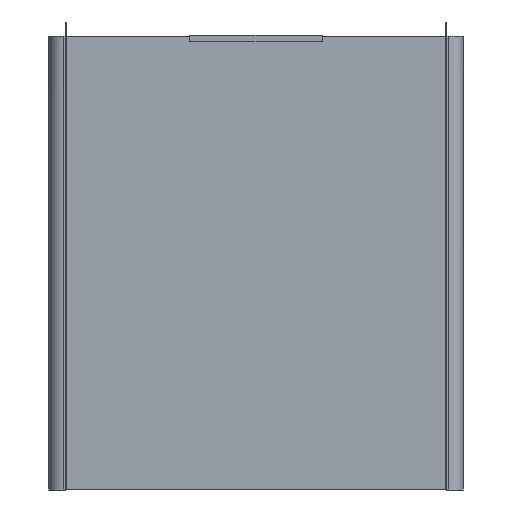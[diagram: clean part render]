
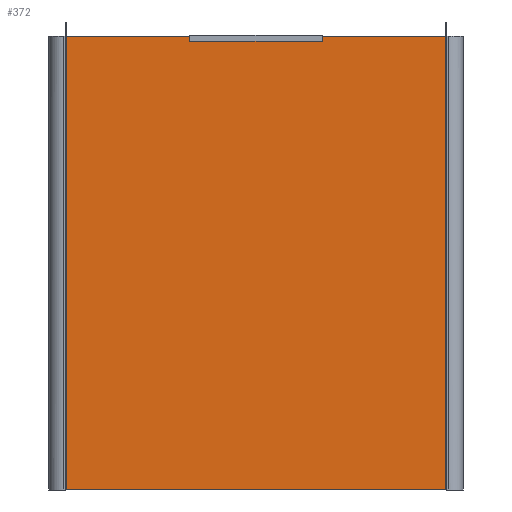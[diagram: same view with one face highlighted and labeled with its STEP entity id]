
A CAD part, front view. The second image highlights one B-rep face of the part: STEP entity #372.
In plain terms, the highlighted planar face has unit normal (0, -1, 0).
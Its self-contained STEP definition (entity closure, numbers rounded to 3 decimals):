
#372=ADVANCED_FACE('',(#467),#1665,.T.);
#467=FACE_OUTER_BOUND('',#570,.T.);
#570=EDGE_LOOP('',(#1024,#1025,#1026,#1027));
#1024=ORIENTED_EDGE('',*,*,#1268,.T.);
#1025=ORIENTED_EDGE('',*,*,#1269,.T.);
#1026=ORIENTED_EDGE('',*,*,#1270,.T.);
#1027=ORIENTED_EDGE('',*,*,#1266,.F.);
#1266=EDGE_CURVE('',#1592,#1593,#1423,.T.);
#1268=EDGE_CURVE('',#1592,#1594,#1425,.T.);
#1269=EDGE_CURVE('',#1594,#1595,#1426,.T.);
#1270=EDGE_CURVE('',#1595,#1593,#1427,.T.);
#1423=B_SPLINE_CURVE_WITH_KNOTS('',1,(#3163,#3164),.UNSPECIFIED.,.F.,.F.,
(2,2),(0.,430.),.UNSPECIFIED.);
#1425=B_SPLINE_CURVE_WITH_KNOTS('',1,(#3167,#3168),.UNSPECIFIED.,.F.,.F.,
(2,2),(-514.,0.),.UNSPECIFIED.);
#1426=B_SPLINE_CURVE_WITH_KNOTS('',1,(#3169,#3170),.UNSPECIFIED.,.F.,.F.,
(2,2),(0.,430.),.UNSPECIFIED.);
#1427=B_SPLINE_CURVE_WITH_KNOTS('',1,(#3171,#3172),.UNSPECIFIED.,.F.,.F.,
(2,2),(-514.,0.),.UNSPECIFIED.);
#1592=VERTEX_POINT('',#3149);
#1593=VERTEX_POINT('',#3150);
#1594=VERTEX_POINT('',#3151);
#1595=VERTEX_POINT('',#3152);
#1665=PLANE('',#1963);
#1963=AXIS2_PLACEMENT_3D('',#3141,#2090,$);
#2090=DIRECTION('',(0.,-1.,0.));
#3141=CARTESIAN_POINT('',(-258.12,-133.5,566.52));
#3149=CARTESIAN_POINT('',(215.,-133.5,1.));
#3150=CARTESIAN_POINT('',(-215.,-133.5,1.));
#3151=CARTESIAN_POINT('',(215.,-133.5,515.));
#3152=CARTESIAN_POINT('',(-215.,-133.5,515.));
#3163=CARTESIAN_POINT('',(215.,-133.5,1.));
#3164=CARTESIAN_POINT('',(-215.,-133.5,1.));
#3167=CARTESIAN_POINT('',(215.,-133.5,1.));
#3168=CARTESIAN_POINT('',(215.,-133.5,515.));
#3169=CARTESIAN_POINT('',(215.,-133.5,515.));
#3170=CARTESIAN_POINT('',(-215.,-133.5,515.));
#3171=CARTESIAN_POINT('',(-215.,-133.5,515.));
#3172=CARTESIAN_POINT('',(-215.,-133.5,1.));
